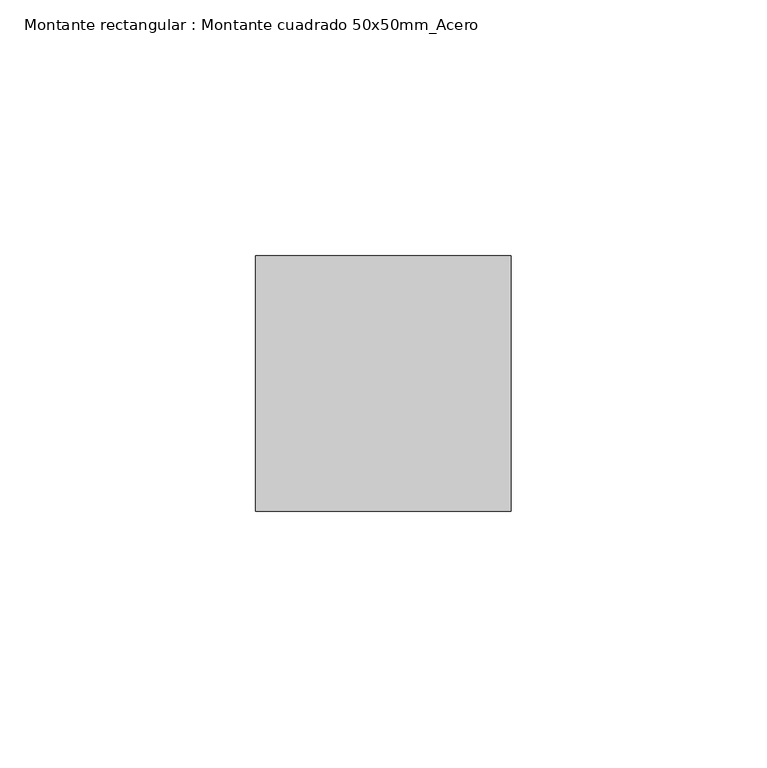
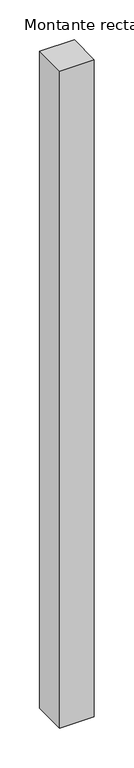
"""IFC4 building model written with IfcOpenShell, lengths in millimetres: member geometry, Montante rectangular : Montante cuadrado 50x50mm_Acero."""

from ifc_helpers import new_model, si_unit, frame, origin, place, context, project, spatial, polyline, outline, extrude, source, transform, mapped, element, save


def montante_rectangular_montante_cuadrado_50x50mm_acero_c6ae027b(model_context):
    return source(origin(), model_context, "Body", "SweptSolid", [
        extrude(outline(polyline([(-50.0, 0.0), (0.0, 0.0), (0.0, -50.0), (-50.0, -50.0), (-50.0, 0.0)])), frame((0.0, 0.0, -1004.0000019), z_axis=(0.0, 0.0, 1.0), x_axis=(1.0, 0.0, 0.0)), (0.0, 0.0, 1.0), 1004.0000019),
    ])


if __name__ == "__main__":
    model = new_model("IFC4")
    model_context = context("Model", 3, world=origin())
    ifc_project = project(units=[si_unit("LENGTHUNIT", "METRE", prefix="MILLI")], contexts=[model_context])
    site = spatial("IfcSite", under=ifc_project)
    building = spatial("IfcBuilding", under=site)
    placement = place(None, origin())
    montante_rectangular_montante_cuadrado_50x50mm_acero_shape = montante_rectangular_montante_cuadrado_50x50mm_acero_c6ae027b(model_context)
    element("IfcMember", 1, ObjectType="Montante rectangular : Montante cuadrado 50x50mm_Acero", at=placement, inside=building, context=model_context, shape_type="MappedRepresentation", body=[
        mapped(montante_rectangular_montante_cuadrado_50x50mm_acero_shape, transform((0.0, 0.0, 0.0), x_axis=(1.0, 0.0, 0.0), y_axis=(0.0, 1.0, 0.0), z_axis=(0.0, 0.0, 1.0))),
    ])
    save(model, "model.ifc")
